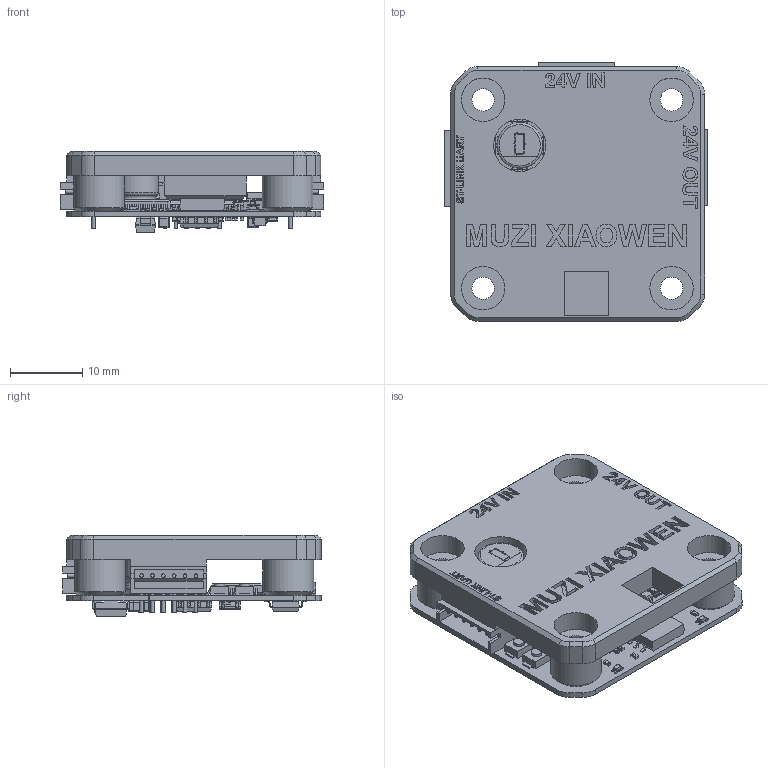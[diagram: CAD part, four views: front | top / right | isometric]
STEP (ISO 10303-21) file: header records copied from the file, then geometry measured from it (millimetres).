
FILE_DESCRIPTION(/* description */ (''),/* implementation_level */ '2;1');
FILE_NAME(/* name */ 'motor35-br-top.step',/* time_stamp */ '2023-12-04T18:23:07+08:00',/* author */ (''),/* organization */ (''),/* preprocessor_version */ 'ST-DEVELOPER v20',/* originating_system */ 'Autodesk Translation Framework v12.14.0.127',/* authorisation */ '');
FILE_SCHEMA (('AUTOMOTIVE_DESIGN { 1 0 10303 214 3 1 1 }'));
Products named in the file (152): mini8-cover; Motor-35; Board; Open CASCADE STEP translator 7.5 3.1.1; C27; P1; S1; c-1825140-1-o1-3d; U5; C11; A-CHIP_D6.3_L7.7__NORMAL_COATED-CASE_STRUCTURE; A-CHIP_D6.3_L7.7_ELEMENT; A-CHIP_D6.3_LEAD-; A-CHIP_D6.3_LEAD＋; A-CHIP_D6.3_TABLE; P3; P2; S6B-ZR; C36; C32; C31; C30; C29; U2; C5; U1; R22; R21; R20; C23; C28; R19; R18; LED2; R11; LED1; User Library-LED_0603_R; User Library-LED_0603_R_Pocket002; User Library-LED_0603_R_Pad004; User Library-LED_0603_R_Fillet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
Assembly tree (204 placements, depth 6):
  mini8-cover
    Motor-35
      Board
        Open CASCADE STEP translator 7.5 3.1.1
      C27
        6250501312
          Terminal
            Open CASCADE STEP translator 6.8 54.1.1
            Open CASCADE STEP translator 6.8 54.1.2
          Mid_Body
            Open CASCADE STEP translator 6.8 54.2.1
      P1
        S6B-ZR
      S1
        c-1825140-1-o1-3d
      U5
        SW3DPS-SO-8-DEFAULT
      C11
        A-CHIP_D6.3_L7.7__NORMAL_COATED-CASE_STRUCTURE
          A-CHIP_D6.3_L7.7_ELEMENT
          A-CHIP_D6.3_LEAD-
          A-CHIP_D6.3_LEAD＋
          A-CHIP_D6.3_TABLE
      P3
        S6B-ZR
      P2
        S6B-ZR
      C36
        6250500912
          Terminal (1)
            Open CASCADE STEP translator 6.8 54.1.1 (1)
            Open CASCADE STEP translator 6.8 54.1.2 (1)
          Mid_Body (1)
            Open CASCADE STEP translator 6.8 54.2.1 (1)
      C32
        (???)
      C31
        (???)
      C30
        (???)
      C29
        (???)
      U2
        SW3DPS-SO-8-DEFAULT
      C5
        6250502032
          Terminal (2)
            Open CASCADE STEP translator 6.8 54.1.1 (2)
            Open CASCADE STEP translator 6.8 54.1.2 (2)
          Mid_Body (2)
            Open CASCADE STEP translator 6.8 54.2.1 (2)
      U1
        SW3DPS-SO-8-DEFAULT
      R22
        6250499392
          Mid_Body (3)
          Terminal (3)  x2
            Open CASCADE STEP translator 6.8 20.2.1
          Mark
      R21
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Bounding box: 36.35 x 35.66 x 11.2 mm (x, y, z)
Volume: 6210.6 mm3; surface area: 9264.9 mm2
Topology: 220 solids, 223 shells, 5131 faces, 12612 edges, 7758 vertices
Faces by surface type: plane 3225, cylinder 1347, sphere 299, bspline 216, torus 32, cone 12
Full cylindrical faces by diameter (mm): 0.08 x2, 0.4 x1, 0.432 x4, 0.45 x4, 0.5 x37, 0.72 x18, 1 x4, 1.5 x2, 3.1 x8, 5 x1, 6 x4, 6.3 x2, 7 x4, 7.2 x1
Entity records: 91603 total; most frequent: CARTESIAN_POINT 20020, ORIENTED_EDGE 14067, DIRECTION 13830, EDGE_CURVE 7046, LINE 5298, VECTOR 5298, VERTEX_POINT 4490, AXIS2_PLACEMENT_3D 4266
